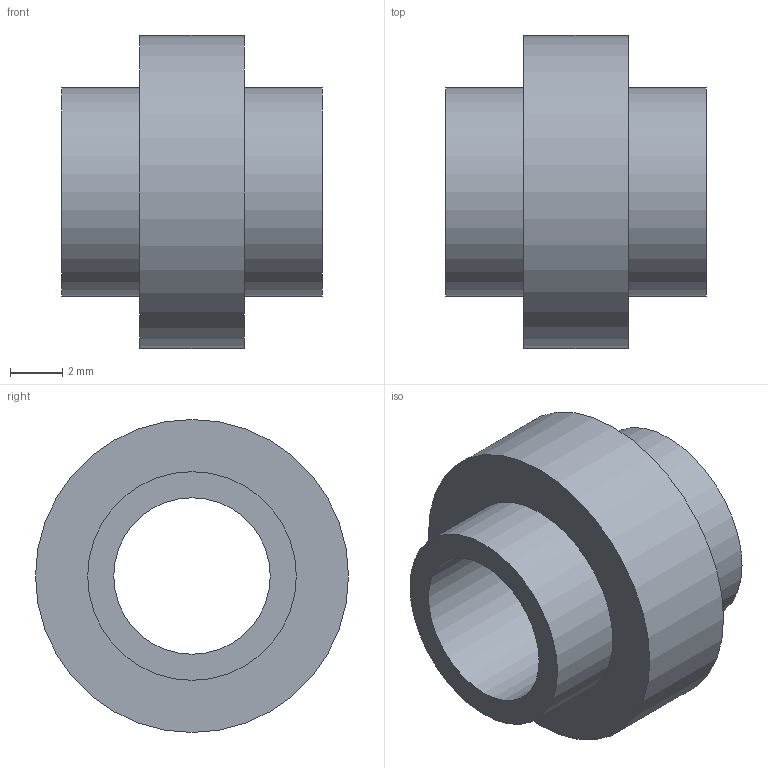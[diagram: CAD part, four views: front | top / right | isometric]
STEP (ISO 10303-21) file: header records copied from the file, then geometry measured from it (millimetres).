
FILE_DESCRIPTION(/* description */ ('STEP AP214'),/* implementation_level */ '2;1');
FILE_NAME(/* name */ 'Mounting Accessory GN 753.2-6-8-4-AB-NI',/* time_stamp */ '2024-12-09T14:00:53+01:00',/* author */ ('License CC BY-ND 4.0'),/* organization */ ('CADENAS'),/* preprocessor_version */ 'ST-DEVELOPER v19.3',/* originating_system */ 'PARTsolutions',/* authorisation */ ' ');
FILE_SCHEMA (('AUTOMOTIVE_DESIGN {1 0 10303 214 3 1 1}'));
Length unit declared in the file: millimetre
Products named in the file (1): Mounting Accessory GN 753.2-6-8-4-AB-NI
Bounding box: 10 x 12 x 12 mm (x, y, z)
Volume: 471.2 mm3; surface area: 659.7 mm2
Topology: 1 solids, 1 shells, 8 faces, 12 edges, 8 vertices
Faces by surface type: plane 4, cylinder 4
Full cylindrical faces by diameter (mm): 6 x1, 8 x2, 12 x1
Entity records: 198 total; most frequent: DIRECTION 34, CARTESIAN_POINT 25, AXIS2_PLACEMENT_3D 17, ORIENTED_EDGE 16, EDGE_LOOP 16, FACE_BOUND 16, EDGE_CURVE 8, VERTEX_POINT 8
